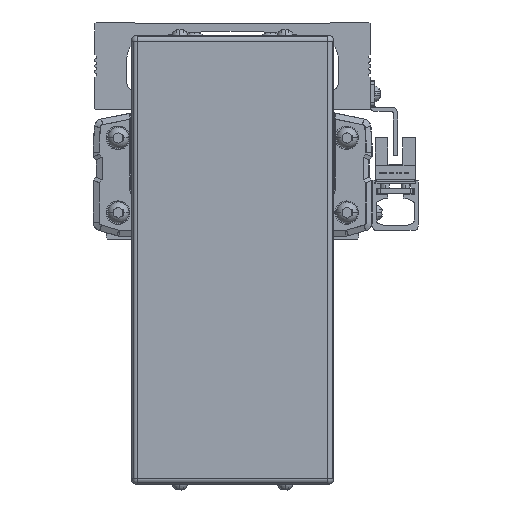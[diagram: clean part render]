
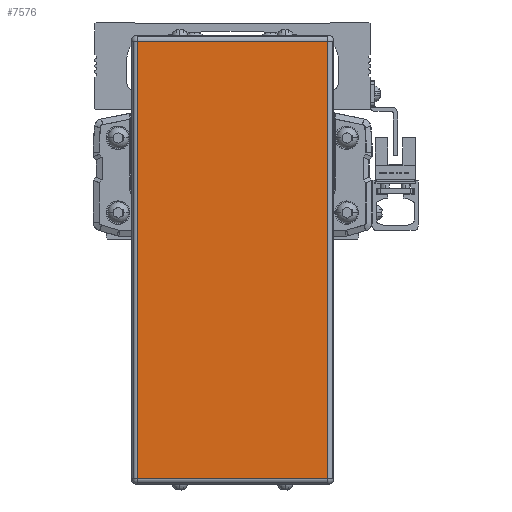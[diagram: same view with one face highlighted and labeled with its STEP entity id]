
A CAD part, front view. The second image highlights one B-rep face of the part: STEP entity #7576.
In plain terms, the highlighted planar face has unit normal (0, -1, 0).
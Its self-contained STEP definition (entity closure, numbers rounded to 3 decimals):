
#7576=ADVANCED_FACE('',(#15214),#15215,.T.);
#15214=FACE_OUTER_BOUND('',#24535,.T.);
#15215=PLANE('',#24536);
#24535=EDGE_LOOP('',(#46430,#46431,#46432,#46433));
#24536=AXIS2_PLACEMENT_3D('',#46434,#46435,#46436);
#46430=ORIENTED_EDGE('',*,*,#55586,.F.);
#46431=ORIENTED_EDGE('',*,*,#48083,.F.);
#46432=ORIENTED_EDGE('',*,*,#51671,.F.);
#46433=ORIENTED_EDGE('',*,*,#49987,.F.);
#46434=CARTESIAN_POINT('',(0.,60.222,-50.1));
#46435=DIRECTION('',(0.0,-1.0,0.));
#46436=DIRECTION('',(1.0,0.0,0.0));
#48083=EDGE_CURVE('',#57660,#57662,#57663,.T.);
#49987=EDGE_CURVE('',#60572,#60900,#60901,.T.);
#51671=EDGE_CURVE('',#60900,#57660,#63462,.T.);
#55586=EDGE_CURVE('',#57662,#60572,#68466,.T.);
#57660=VERTEX_POINT('',#71373);
#57662=VERTEX_POINT('',#71375);
#57663=LINE('',#71376,#71377);
#60572=VERTEX_POINT('',#75498);
#60900=VERTEX_POINT('',#76003);
#60901=LINE('',#76004,#76005);
#63462=LINE('',#79784,#79785);
#68466=LINE('',#87264,#87265);
#71373=CARTESIAN_POINT('',(-32.5,60.222,24.5));
#71375=CARTESIAN_POINT('',(32.5,60.222,24.5));
#71376=CARTESIAN_POINT('',(0.,60.222,24.5));
#71377=VECTOR('',#88808,10.0);
#75498=CARTESIAN_POINT('',(32.5,60.222,-124.7));
#76003=CARTESIAN_POINT('',(-32.5,60.222,-124.7));
#76004=CARTESIAN_POINT('',(0.,60.222,-124.7));
#76005=VECTOR('',#91229,10.0);
#79784=CARTESIAN_POINT('',(-32.5,60.222,-50.1));
#79785=VECTOR('',#93241,10.0);
#87264=CARTESIAN_POINT('',(32.5,60.222,-50.1));
#87265=VECTOR('',#97188,10.0);
#88808=DIRECTION('',(1.0,0.0,0.0));
#91229=DIRECTION('',(-1.0,0.0,0.0));
#93241=DIRECTION('',(0.0,0.,1.0));
#97188=DIRECTION('',(0.0,0.,-1.0));
